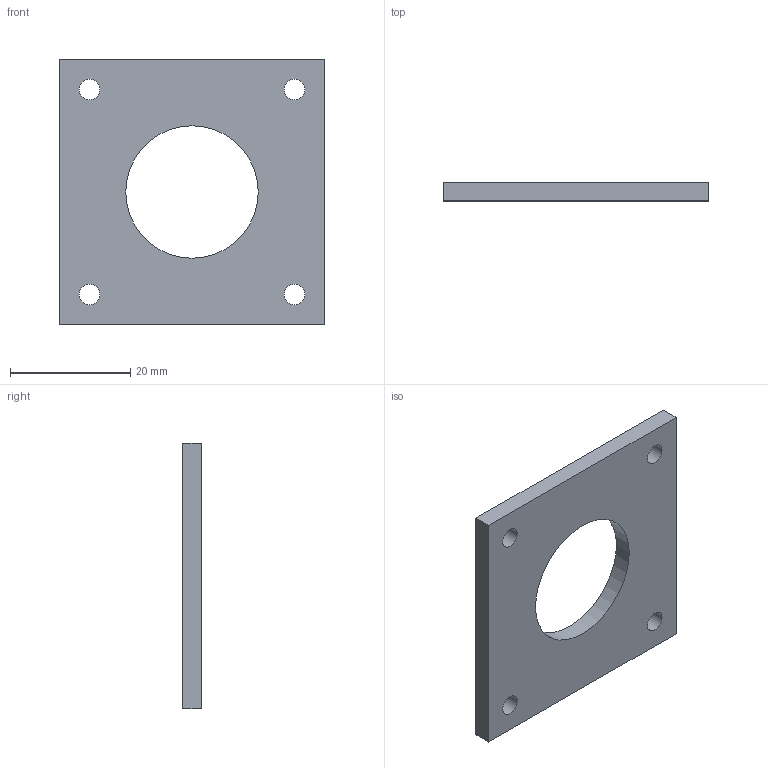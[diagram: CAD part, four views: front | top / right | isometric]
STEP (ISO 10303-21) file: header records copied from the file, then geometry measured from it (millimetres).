
FILE_DESCRIPTION(('Open CASCADE Model'),'2;1');
FILE_NAME('Open CASCADE Shape Model','2026-11-05T14:04:52',('Author'),( 'Open CASCADE'),'Open CASCADE STEP processor 7.8','Open CASCADE 7.8' ,'Unknown');
FILE_SCHEMA(('AUTOMOTIVE_DESIGN { 1 0 10303 214 1 1 1 1 }'));
Length unit declared in the file: millimetre
Products named in the file (1): Open CASCADE STEP translator 7.8 4
Bounding box: 44 x 3 x 44 mm (x, y, z)
Volume: 4558.7 mm3; surface area: 3902.6 mm2
Topology: 1 solids, 1 shells, 11 faces, 27 edges, 18 vertices
Faces by surface type: plane 6, cylinder 5
Full cylindrical faces by diameter (mm): 3.4 x4, 22 x1
Entity records: 712 total; most frequent: DIRECTION 115, CARTESIAN_POINT 111, LINE 61, VECTOR 61, ORIENTED_EDGE 54, PCURVE 54, DEFINITIONAL_REPRESENTATION 54, EDGE_CURVE 27
